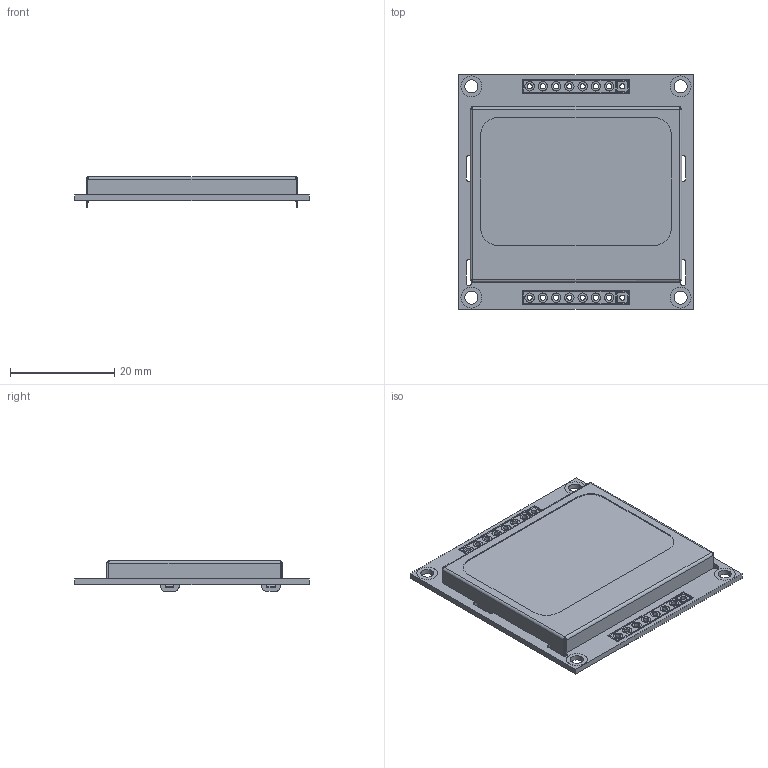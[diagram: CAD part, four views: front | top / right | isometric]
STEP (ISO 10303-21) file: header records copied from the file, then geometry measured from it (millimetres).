
FILE_DESCRIPTION (( 'STEP AP214' ), '1' );
FILE_NAME ('User Library-LCD5110R-1.STEP', '2018-06-12T02:56:23', ( '' ), ( '' ), 'SwSTEP 2.0', 'SolidWorks 2018', '' );
FILE_SCHEMA (( 'AUTOMOTIVE_DESIGN' ));
Length unit declared in the file: millimetre
Products named in the file (1): User Library-LCD5110R-1
Bounding box: 45 x 45 x 5.9 mm (x, y, z)
Volume: 6595.1 mm3; surface area: 5911.8 mm2
Topology: 1 solids, 1 shells, 905 faces, 2352 edges, 1541 vertices
Faces by surface type: plane 494, bspline 247, cylinder 164
Entity records: 51185 total; most frequent: CARTESIAN_POINT 20286, ORIENTED_EDGE 4704, DIRECTION 3500, EDGE_CURVE 2352, VERTEX_POINT 1541, LINE 1534, VECTOR 1534, EDGE_LOOP 1065
